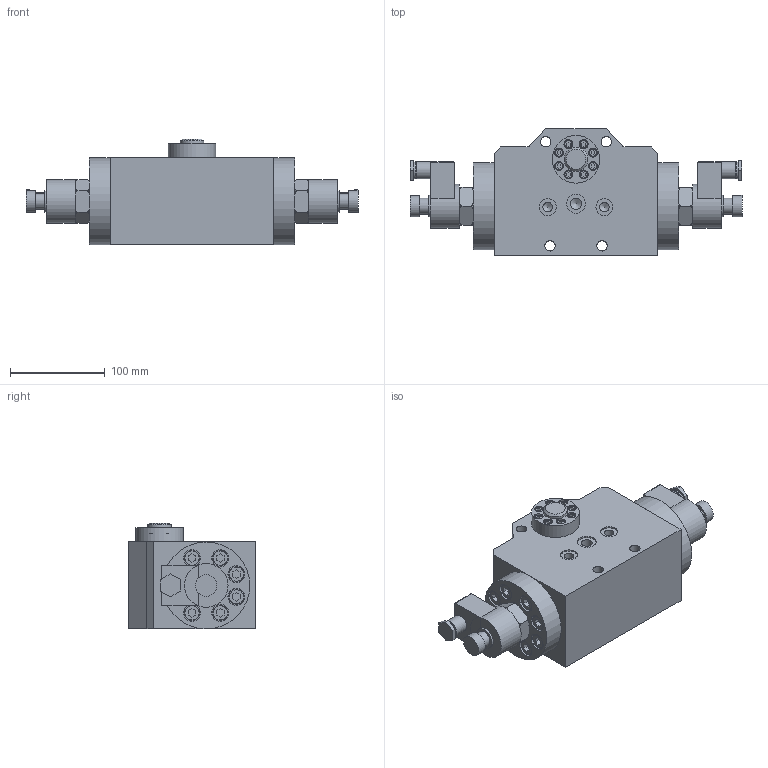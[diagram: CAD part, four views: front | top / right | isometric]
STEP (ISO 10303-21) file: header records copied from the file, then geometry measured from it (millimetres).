
FILE_DESCRIPTION(/* description */ (''),/* implementation_level */ '2;1');
FILE_NAME(/* name */ '数字2.prt.stp',/* time_stamp */ '2023-05-03T14:49:24+08:00',/* author */ (''),/* organization */ (''),/* preprocessor_version */ 'ST-DEVELOPER v16.7',/* originating_system */ 'SIEMENS PLM Software NX 12.0',/* authorisation */ '');
FILE_SCHEMA (('AUTOMOTIVE_DESIGN { 1 0 10303 214 3 1 1 1 }'));
Length unit declared in the file: millimetre
Products named in the file (1): 数字2
Bounding box: 351.03 x 134 x 112 mm (x, y, z)
Volume: 2510387.9 mm3; surface area: 299019 mm2
Topology: 51 solids, 51 shells, 798 faces, 1908 edges, 1263 vertices
Faces by surface type: plane 471, cylinder 203, torus 72, cone 52
Full cylindrical faces by diameter (mm): 4.2 x8, 5 x8, 5.5 x8, 8.5 x24, 9.5 x8, 10 x18, 11 x20, 12 x1, 16 x18, 16.666 x2, 18 x22, 20 x1, 22.666 x4, 25.101 x2, 46.188 x2, 50.299 x1, 92 x2
Entity records: 21993 total; most frequent: CARTESIAN_POINT 4356, DIRECTION 3580, ORIENTED_EDGE 3062, EDGE_CURVE 1531, AXIS2_PLACEMENT_3D 1346, EDGE_LOOP 1204, VERTEX_POINT 1162, LINE 888
